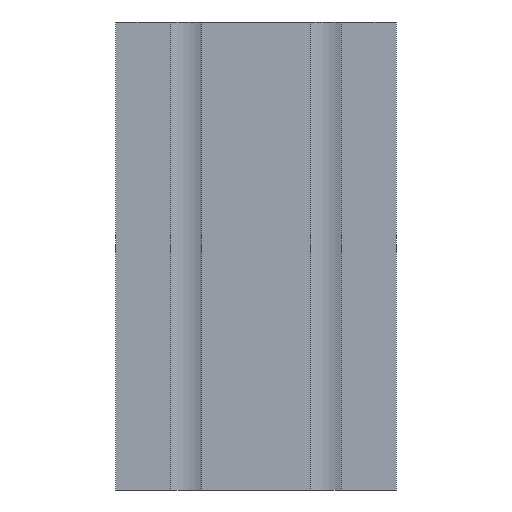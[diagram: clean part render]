
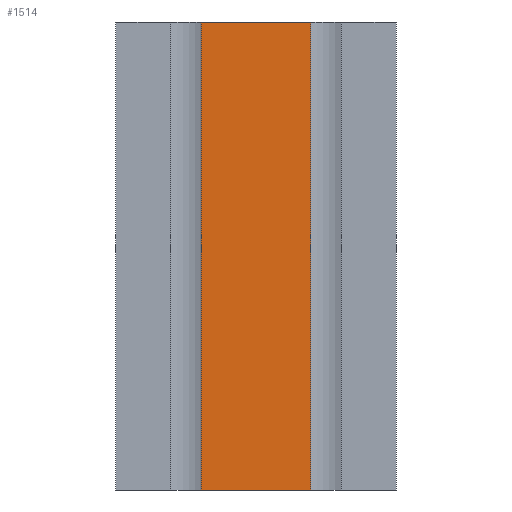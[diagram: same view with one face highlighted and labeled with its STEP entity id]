
A CAD part, front view. The second image highlights one B-rep face of the part: STEP entity #1514.
In plain terms, the highlighted planar face has unit normal (0, -1, 0).
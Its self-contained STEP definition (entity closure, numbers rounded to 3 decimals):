
#246=ORIENTED_EDGE('',*,*,#626,.F.);
#247=ORIENTED_EDGE('',*,*,#627,.F.);
#248=ORIENTED_EDGE('',*,*,#628,.T.);
#249=ORIENTED_EDGE('',*,*,#568,.F.);
#568=EDGE_CURVE('',#768,#769,#911,.T.);
#626=EDGE_CURVE('',#819,#768,#963,.T.);
#627=EDGE_CURVE('',#820,#819,#964,.T.);
#628=EDGE_CURVE('',#820,#769,#965,.T.);
#768=VERTEX_POINT('',#2227);
#769=VERTEX_POINT('',#2229);
#819=VERTEX_POINT('',#2343);
#820=VERTEX_POINT('',#2347);
#911=LINE('',#2228,#1095);
#963=LINE('',#2344,#1147);
#964=LINE('',#2346,#1148);
#965=LINE('',#2348,#1149);
#1095=VECTOR('',#1818,1000.);
#1147=VECTOR('',#1896,1000.);
#1148=VECTOR('',#1899,1000.);
#1149=VECTOR('',#1900,1000.);
#1275=EDGE_LOOP('',(#246,#247,#248,#249));
#1371=FACE_BOUND('',#1275,.T.);
#1443=PLANE('',#1630);
#1514=ADVANCED_FACE('',(#1371),#1443,.T.);
#1630=AXIS2_PLACEMENT_3D('',#2345,#1897,#1898);
#1818=DIRECTION('',(-1.,0.,0.));
#1896=DIRECTION('',(0.,0.,-1.));
#1897=DIRECTION('',(0.,-1.,0.));
#1898=DIRECTION('',(1.,0.,0.));
#1899=DIRECTION('',(1.,0.,0.));
#1900=DIRECTION('',(0.,0.,-1.));
#2227=CARTESIAN_POINT('',(11.75,-15.,-50.));
#2228=CARTESIAN_POINT('',(11.75,-15.,-50.));
#2229=CARTESIAN_POINT('',(-11.75,-15.,-50.));
#2343=CARTESIAN_POINT('',(11.75,-15.,50.));
#2344=CARTESIAN_POINT('',(11.75,-15.,0.));
#2345=CARTESIAN_POINT('',(-11.75,-15.,0.));
#2346=CARTESIAN_POINT('',(-11.75,-15.,50.));
#2347=CARTESIAN_POINT('',(-11.75,-15.,50.));
#2348=CARTESIAN_POINT('',(-11.75,-15.,0.));
